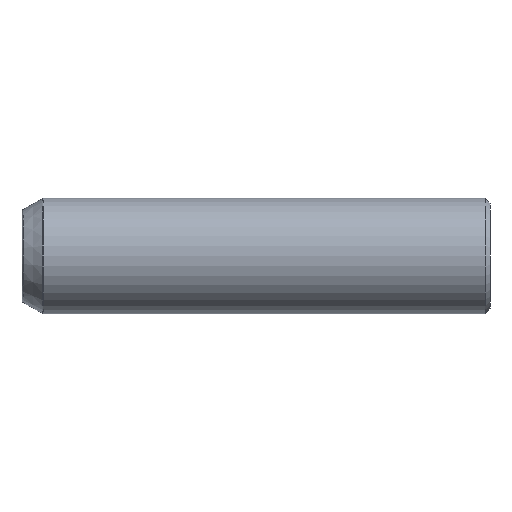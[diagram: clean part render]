
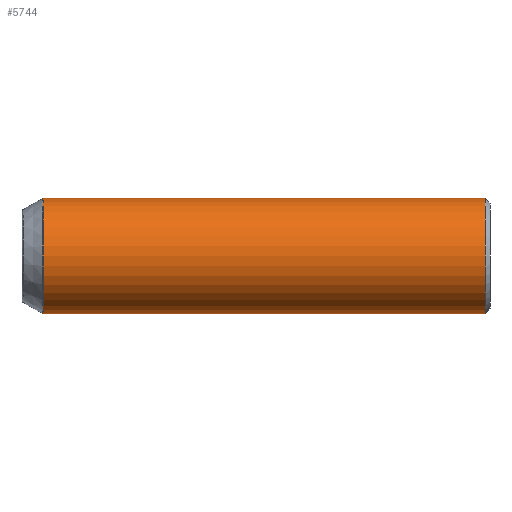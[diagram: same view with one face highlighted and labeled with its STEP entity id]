
A CAD part, left-side view. The second image highlights one B-rep face of the part: STEP entity #5744.
In plain terms, the highlighted cylindrical face has radius 12.5 mm (diameter 25 mm), a partial arc.
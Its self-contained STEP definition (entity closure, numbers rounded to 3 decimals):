
#778 = CARTESIAN_POINT ( 'NONE',  ( -6.15, 94.488, 0. ) ) ;
#782 = DIRECTION ( 'NONE',  ( 0., 0., -1. ) ) ;
#796 = DIRECTION ( 'NONE',  ( 0., -1., 0. ) ) ;
#1055 = EDGE_LOOP ( 'NONE', ( #3745, #3778, #3803, #3774 ) ) ;
#2339 = CARTESIAN_POINT ( 'NONE',  ( -6.15, -6.112, 12.5 ) ) ;
#2363 = CARTESIAN_POINT ( 'NONE',  ( -6.15, 89.858, -12.5 ) ) ;
#2369 = CARTESIAN_POINT ( 'NONE',  ( -6.15, 89.858, 12.5 ) ) ;
#2381 = CARTESIAN_POINT ( 'NONE',  ( -6.15, -6.112, -12.5 ) ) ;
#3113 = AXIS2_PLACEMENT_3D ( 'NONE', #5388, #5378, #5370 ) ;
#3125 = AXIS2_PLACEMENT_3D ( 'NONE', #5420, #5426, #5441 ) ;
#3745 = ORIENTED_EDGE ( 'NONE', *, *, #7562, .F. ) ;
#3774 = ORIENTED_EDGE ( 'NONE', *, *, #7574, .T. ) ;
#3778 = ORIENTED_EDGE ( 'NONE', *, *, #7565, .T. ) ;
#3803 = ORIENTED_EDGE ( 'NONE', *, *, #7579, .T. ) ;
#3969 = FACE_OUTER_BOUND ( 'NONE', #1055, .T. ) ;
#3997 = CYLINDRICAL_SURFACE ( 'NONE', #7013, 12.5 ) ;
#4295 = VERTEX_POINT ( 'NONE', #2339 ) ;
#4324 = VERTEX_POINT ( 'NONE', #2369 ) ;
#4364 = VERTEX_POINT ( 'NONE', #2381 ) ;
#4392 = VERTEX_POINT ( 'NONE', #2363 ) ;
#5299 = DIRECTION ( 'NONE',  ( 0., -1., 0. ) ) ;
#5336 = CARTESIAN_POINT ( 'NONE',  ( -6.15, 94.488, 12.5 ) ) ;
#5370 = DIRECTION ( 'NONE',  ( 0., 0., 1. ) ) ;
#5378 = DIRECTION ( 'NONE',  ( 0., -1., 0. ) ) ;
#5388 = CARTESIAN_POINT ( 'NONE',  ( -6.15, 89.858, 0. ) ) ;
#5420 = CARTESIAN_POINT ( 'NONE',  ( -6.15, -6.112, 0. ) ) ;
#5426 = DIRECTION ( 'NONE',  ( 0., 1., 0. ) ) ;
#5429 = DIRECTION ( 'NONE',  ( 0., -1., 0. ) ) ;
#5441 = DIRECTION ( 'NONE',  ( 0., 0., 1. ) ) ;
#5483 = CARTESIAN_POINT ( 'NONE',  ( -6.15, 94.488, -12.5 ) ) ;
#5744 = ADVANCED_FACE ( 'NONE', ( #3969 ), #3997, .T. ) ;
#6783 = CIRCLE ( 'NONE', #3113, 12.5 ) ;
#6789 = CIRCLE ( 'NONE', #3125, 12.5 ) ;
#6796 = LINE ( 'NONE', #5336, #6827 ) ;
#6827 = VECTOR ( 'NONE', #5299, 1000. ) ;
#6851 = LINE ( 'NONE', #5483, #6860 ) ;
#6860 = VECTOR ( 'NONE', #5429, 1000. ) ;
#7013 = AXIS2_PLACEMENT_3D ( 'NONE', #778, #796, #782 ) ;
#7562 = EDGE_CURVE ( 'NONE', #4324, #4295, #6796, .T. ) ;
#7565 = EDGE_CURVE ( 'NONE', #4324, #4392, #6783, .T. ) ;
#7574 = EDGE_CURVE ( 'NONE', #4364, #4295, #6789, .T. ) ;
#7579 = EDGE_CURVE ( 'NONE', #4392, #4364, #6851, .T. ) ;
